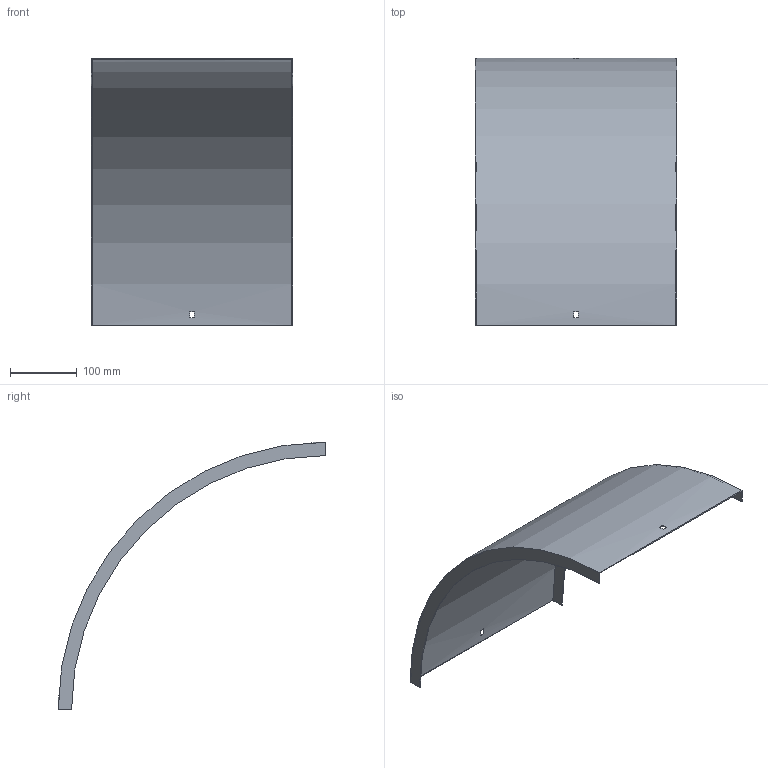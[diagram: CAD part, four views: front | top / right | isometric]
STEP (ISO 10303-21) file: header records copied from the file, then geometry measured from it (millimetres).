
FILE_DESCRIPTION (( 'STEP AP214' ), '1' );
FILE_NAME ('B2_33N3D300.step', '2025-02-21T10:47:01', ( '' ), ( '' ), 'SwSTEP 2.0', 'SolidWorks 2023', '' );
FILE_SCHEMA (( 'AUTOMOTIVE_DESIGN' ));
Length unit declared in the file: millimetre
Products named in the file (1): B2_33N3D300
Bounding box: 303 x 401.5 x 401.5 mm (x, y, z)
Volume: 319995.8 mm3; surface area: 429575.5 mm2
Topology: 1 solids, 1 shells, 18 faces, 48 edges, 32 vertices
Faces by surface type: plane 14, cylinder 4
Entity records: 599 total; most frequent: DIRECTION 102, CARTESIAN_POINT 99, ORIENTED_EDGE 96, EDGE_CURVE 48, AXIS2_PLACEMENT_3D 35, LINE 32, VECTOR 32, VERTEX_POINT 32
